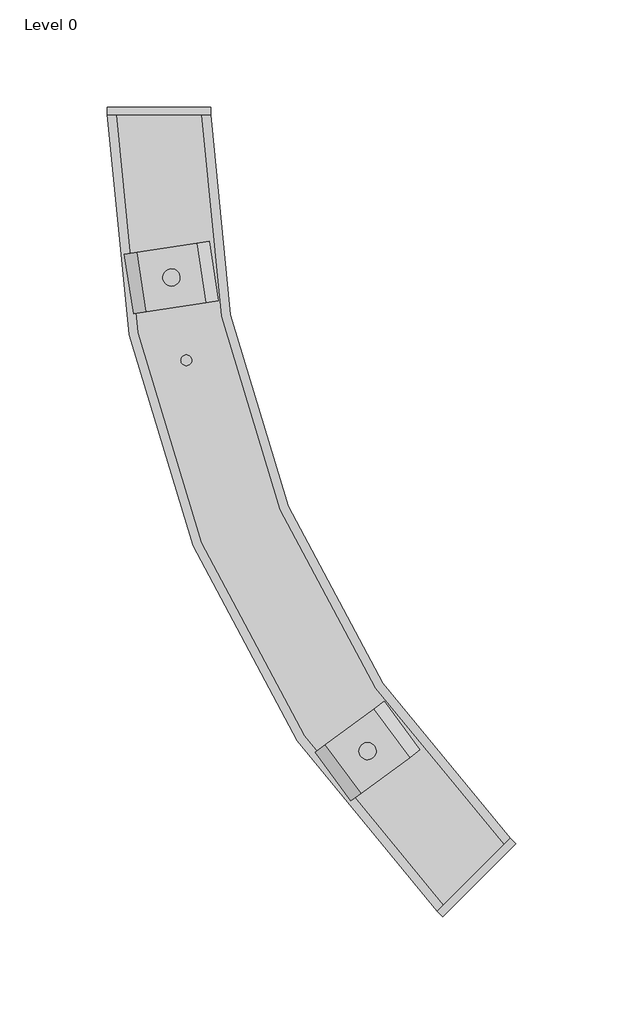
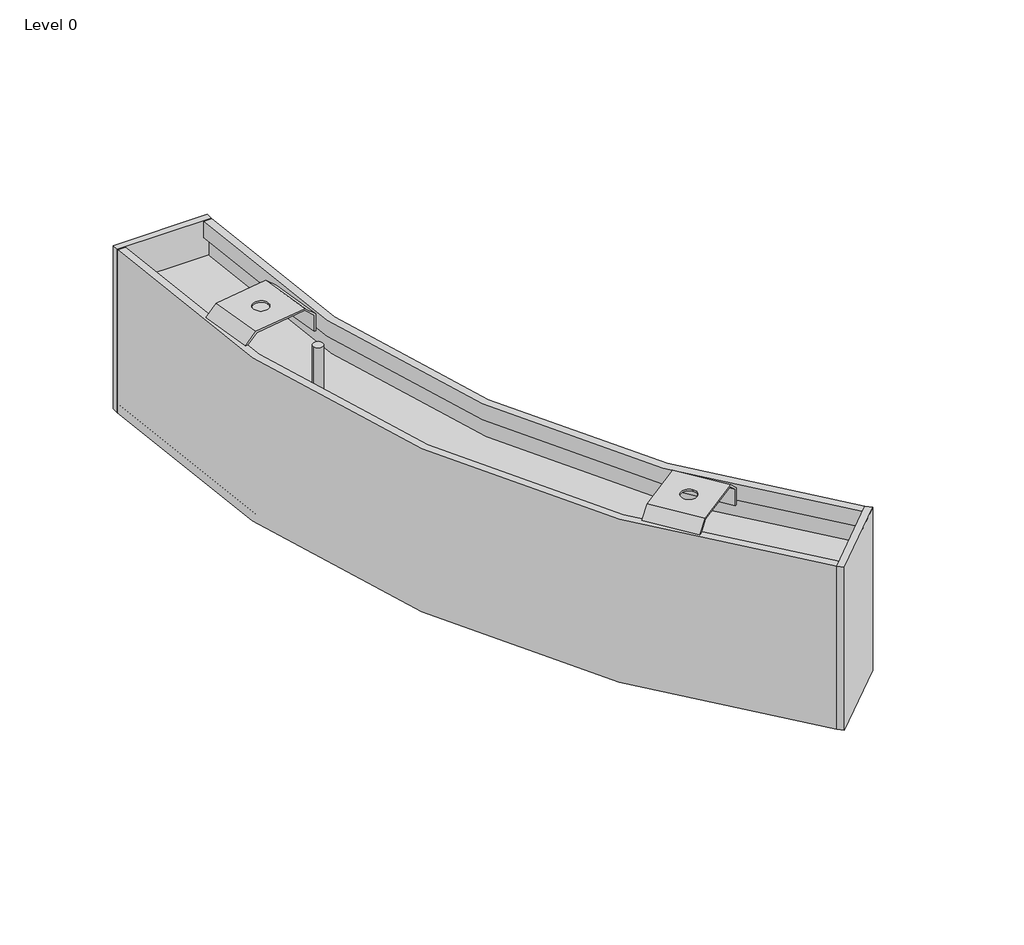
# One storey: 1 light fixture.
"""IFC4 building model written with IfcOpenShell, lengths in millimetres."""

from ifc_helpers import new_model, si_unit, origin, place, context, project, spatial, transform, mapped, element, save
from components import silver_anodized_4000_k_640_lm_8bc370e9

model = new_model("IFC4")

# Units and contexts
model_context = context("Model", 3, world=origin())
ifc_project = project(units=[si_unit("LENGTHUNIT", "METRE", prefix="MILLI")], contexts=[model_context])

# Site, building, storey
site = spatial("IfcSite", under=ifc_project)
building = spatial("IfcBuilding", under=site)
storey = spatial("IfcBuildingStorey", under=building, Name="Level 0", Elevation=0.0)

# Light fixture
placement = place(None, origin())
silver_anodized_4000_k_640_lm_shape = silver_anodized_4000_k_640_lm_8bc370e9(model_context)
element("IfcLightFixture", 1, ObjectType="KLUŚ - SERPENT - R NT 1_8 r 500 : Silver Anodized - 4000 K - 640 lm", at=placement, inside=storey, context=model_context, shape_type="MappedRepresentation", body=[
    mapped(silver_anodized_4000_k_640_lm_shape, transform((0.0, 0.0, 93.0), x_axis=(1.0, 0.0, 0.0), y_axis=(0.0, -1.0, 0.0), z_axis=(0.0, 0.0, -1.0))),
])

save(model, "model.ifc")
